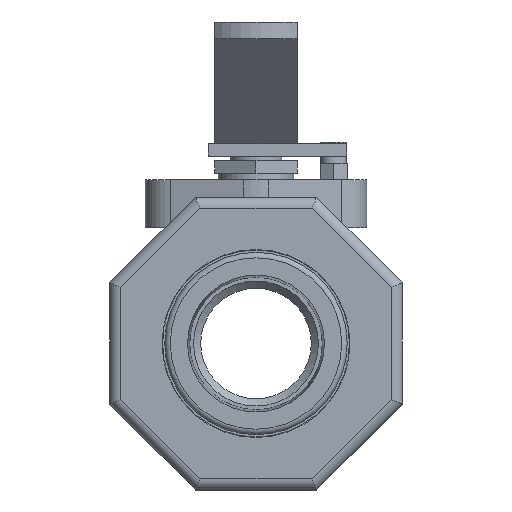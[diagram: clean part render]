
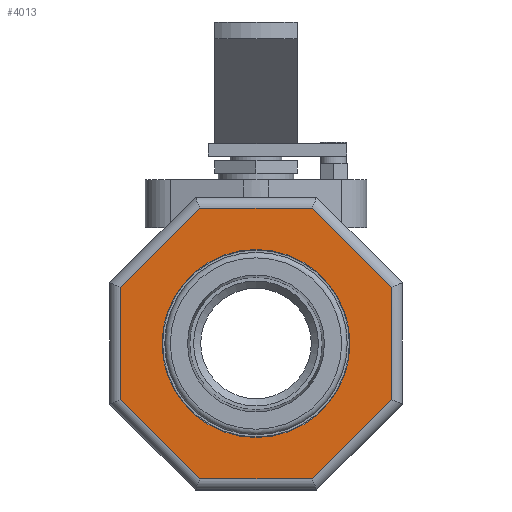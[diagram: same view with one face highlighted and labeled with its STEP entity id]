
A CAD part, left-side view. The second image highlights one B-rep face of the part: STEP entity #4013.
In plain terms, the highlighted planar face has unit normal (-1, 0, 0).
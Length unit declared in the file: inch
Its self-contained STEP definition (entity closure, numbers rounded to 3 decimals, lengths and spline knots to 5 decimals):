
#3732=CARTESIAN_POINT('',(0.73,1.225,-0.50741));
#3733=VERTEX_POINT('',#3732);
#3734=CARTESIAN_POINT('',(0.73,1.225,0.50741));
#3735=VERTEX_POINT('',#3734);
#3736=CARTESIAN_POINT('',(0.73,1.225,-0.50741));
#3737=DIRECTION('',(0.0,0.0,1.0));
#3738=VECTOR('',#3737,1.01482);
#3739=LINE('',#3736,#3738);
#3740=EDGE_CURVE('',#3733,#3735,#3739,.T.);
#3772=CARTESIAN_POINT('',(0.73,0.50741,1.225));
#3773=VERTEX_POINT('',#3772);
#3774=CARTESIAN_POINT('',(0.73,1.225,0.50741));
#3775=DIRECTION('',(0.0,-0.707,0.707));
#3776=VECTOR('',#3775,1.01482);
#3777=LINE('',#3774,#3776);
#3778=EDGE_CURVE('',#3735,#3773,#3777,.T.);
#3804=CARTESIAN_POINT('',(0.73,-0.50741,1.225));
#3805=VERTEX_POINT('',#3804);
#3806=CARTESIAN_POINT('',(0.73,0.50741,1.225));
#3807=DIRECTION('',(0.0,-1.0,0.0));
#3808=VECTOR('',#3807,1.01482);
#3809=LINE('',#3806,#3808);
#3810=EDGE_CURVE('',#3773,#3805,#3809,.T.);
#3836=CARTESIAN_POINT('',(0.73,-1.225,-0.50741));
#3837=VERTEX_POINT('',#3836);
#3838=CARTESIAN_POINT('',(0.73,-0.50741,-1.225));
#3839=VERTEX_POINT('',#3838);
#3840=CARTESIAN_POINT('',(0.73,-1.225,-0.50741));
#3841=DIRECTION('',(0.0,0.707,-0.707));
#3842=VECTOR('',#3841,1.01482);
#3843=LINE('',#3840,#3842);
#3844=EDGE_CURVE('',#3837,#3839,#3843,.T.);
#3869=CARTESIAN_POINT('',(0.73,-1.225,0.50741));
#3870=VERTEX_POINT('',#3869);
#3871=CARTESIAN_POINT('',(0.73,-0.50741,1.225));
#3872=DIRECTION('',(0.0,-0.707,-0.707));
#3873=VECTOR('',#3872,1.01482);
#3874=LINE('',#3871,#3873);
#3875=EDGE_CURVE('',#3805,#3870,#3874,.T.);
#3899=CARTESIAN_POINT('',(0.73,-1.225,0.50741));
#3900=DIRECTION('',(0.0,0.0,-1.0));
#3901=VECTOR('',#3900,1.01482);
#3902=LINE('',#3899,#3901);
#3903=EDGE_CURVE('',#3870,#3837,#3902,.T.);
#3916=CARTESIAN_POINT('',(0.73,0.50741,-1.225));
#3917=VERTEX_POINT('',#3916);
#3918=CARTESIAN_POINT('',(0.73,-0.50741,-1.225));
#3919=DIRECTION('',(0.0,1.0,0.0));
#3920=VECTOR('',#3919,1.01482);
#3921=LINE('',#3918,#3920);
#3922=EDGE_CURVE('',#3839,#3917,#3921,.T.);
#3941=CARTESIAN_POINT('',(0.73,0.50741,-1.225));
#3942=DIRECTION('',(0.0,0.707,0.707));
#3943=VECTOR('',#3942,1.01482);
#3944=LINE('',#3941,#3943);
#3945=EDGE_CURVE('',#3917,#3733,#3944,.T.);
#3987=CARTESIAN_POINT('',(0.73,0.0,0.));
#3988=DIRECTION('',(1.0,0.0,0.0));
#3989=DIRECTION('',(0.0,0.0,-1.0));
#3990=AXIS2_PLACEMENT_3D('',#3987,#3988,#3989);
#3991=PLANE('',#3990);
#3992=ORIENTED_EDGE('',*,*,#3844,.F.);
#3993=ORIENTED_EDGE('',*,*,#3903,.F.);
#3994=ORIENTED_EDGE('',*,*,#3875,.F.);
#3995=ORIENTED_EDGE('',*,*,#3810,.F.);
#3996=ORIENTED_EDGE('',*,*,#3778,.F.);
#3997=ORIENTED_EDGE('',*,*,#3740,.F.);
#3998=ORIENTED_EDGE('',*,*,#3945,.F.);
#3999=ORIENTED_EDGE('',*,*,#3922,.F.);
#4000=EDGE_LOOP('',(#3992,#3993,#3994,#3995,#3996,#3997,#3998,#3999));
#4001=FACE_OUTER_BOUND('',#4000,.T.);
#4002=CARTESIAN_POINT('',(0.73,-0.85,0.0));
#4003=VERTEX_POINT('',#4002);
#4004=CARTESIAN_POINT('',(0.73,0.0,0.0));
#4005=DIRECTION('',(1.0,0.0,0.0));
#4006=DIRECTION('',(0.0,1.0,0.0));
#4007=AXIS2_PLACEMENT_3D('',#4004,#4005,#4006);
#4008=CIRCLE('',#4007,0.85);
#4009=EDGE_CURVE('',#4003,#4003,#4008,.T.);
#4010=ORIENTED_EDGE('',*,*,#4009,.T.);
#4011=EDGE_LOOP('',(#4010));
#4012=FACE_BOUND('',#4011,.T.);
#4013=ADVANCED_FACE('',(#4001,#4012),#3991,.F.);
